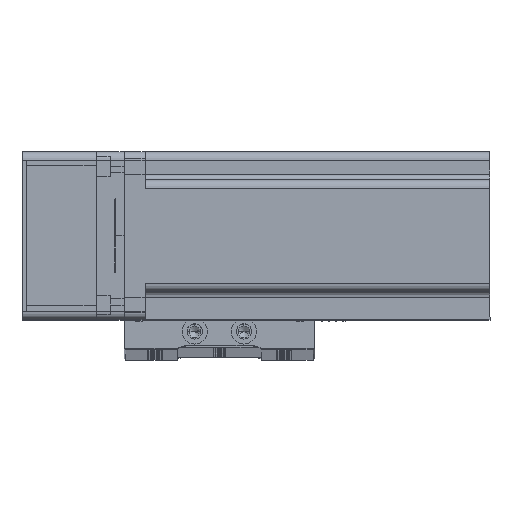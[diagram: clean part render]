
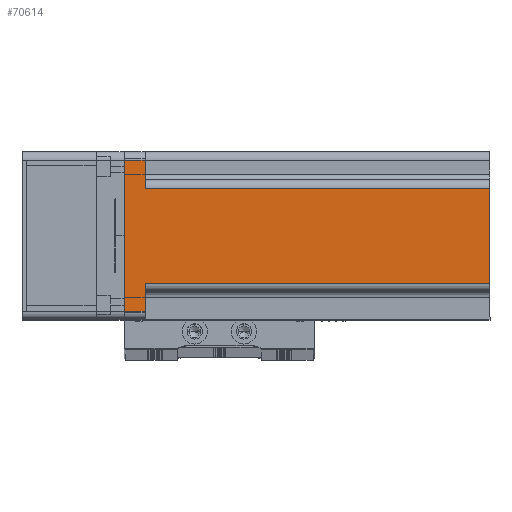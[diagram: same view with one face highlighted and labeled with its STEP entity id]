
A CAD part, top view. The second image highlights one B-rep face of the part: STEP entity #70614.
In plain terms, the highlighted planar face has unit normal (0, 0, 1) as drawn and (0, 1, 0) by its records, which use the part's own axes.
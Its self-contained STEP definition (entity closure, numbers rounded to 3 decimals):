
#1621 = VECTOR ( 'NONE', #2649, 1000. ) ;
#2649 = DIRECTION ( 'NONE',  ( 0., 0., 1. ) ) ;
#2718 = CARTESIAN_POINT ( 'NONE',  ( 27., 30., 0. ) ) ;
#3112 = EDGE_CURVE ( 'NONE', #39220, #55050, #52406, .T. ) ;
#3672 = ORIENTED_EDGE ( 'NONE', *, *, #25800, .T. ) ;
#6633 = CARTESIAN_POINT ( 'NONE',  ( -27., 30., 7.5 ) ) ;
#7886 = VERTEX_POINT ( 'NONE', #55307 ) ;
#8769 = CARTESIAN_POINT ( 'NONE',  ( -17., 30., 130.7 ) ) ;
#9612 = DIRECTION ( 'NONE',  ( 0., -1., 0. ) ) ;
#9867 = VECTOR ( 'NONE', #52873, 1000. ) ;
#10938 = ORIENTED_EDGE ( 'NONE', *, *, #61831, .T. ) ;
#14770 = VECTOR ( 'NONE', #23185, 1000. ) ;
#14965 = CARTESIAN_POINT ( 'NONE',  ( 27., 30., 130.7 ) ) ;
#15165 = CARTESIAN_POINT ( 'NONE',  ( 17., 30., 130.7 ) ) ;
#16216 = LINE ( 'NONE', #40785, #1621 ) ;
#18284 = ORIENTED_EDGE ( 'NONE', *, *, #63322, .T. ) ;
#20382 = PLANE ( 'NONE',  #46071 ) ;
#22078 = CARTESIAN_POINT ( 'NONE',  ( -20., 30., 7.5 ) ) ;
#23185 = DIRECTION ( 'NONE',  ( -1., 0., 0. ) ) ;
#24145 = FACE_OUTER_BOUND ( 'NONE', #58896, .T. ) ;
#24586 = VECTOR ( 'NONE', #40781, 1000. ) ;
#25800 = EDGE_CURVE ( 'NONE', #39220, #33747, #70132, .T. ) ;
#26830 = CARTESIAN_POINT ( 'NONE',  ( 17., 30., 130.7 ) ) ;
#31302 = ORIENTED_EDGE ( 'NONE', *, *, #37890, .T. ) ;
#33747 = VERTEX_POINT ( 'NONE', #59752 ) ;
#35823 = ORIENTED_EDGE ( 'NONE', *, *, #65933, .F. ) ;
#36843 = LINE ( 'NONE', #14965, #66017 ) ;
#36876 = ORIENTED_EDGE ( 'NONE', *, *, #42198, .T. ) ;
#36965 = EDGE_CURVE ( 'NONE', #45448, #7886, #45649, .T. ) ;
#37890 = EDGE_CURVE ( 'NONE', #60260, #42903, #59131, .T. ) ;
#39180 = LINE ( 'NONE', #68111, #24586 ) ;
#39220 = VERTEX_POINT ( 'NONE', #26830 ) ;
#39222 = VECTOR ( 'NONE', #64099, 1000. ) ;
#40781 = DIRECTION ( 'NONE',  ( 0., 0., 1. ) ) ;
#40785 = CARTESIAN_POINT ( 'NONE',  ( -17., 30., 130.7 ) ) ;
#42169 = CARTESIAN_POINT ( 'NONE',  ( -17., 30., 7.5 ) ) ;
#42198 = EDGE_CURVE ( 'NONE', #47156, #45448, #36843, .T. ) ;
#42438 = CARTESIAN_POINT ( 'NONE',  ( 30., 30., 130.7 ) ) ;
#42903 = VERTEX_POINT ( 'NONE', #42169 ) ;
#44082 = CARTESIAN_POINT ( 'NONE',  ( 27., 30., 7.5 ) ) ;
#45448 = VERTEX_POINT ( 'NONE', #2718 ) ;
#45649 = LINE ( 'NONE', #50567, #14770 ) ;
#46071 = AXIS2_PLACEMENT_3D ( 'NONE', #42438, #9612, #47995 ) ;
#46285 = VECTOR ( 'NONE', #60497, 1000. ) ;
#47156 = VERTEX_POINT ( 'NONE', #44082 ) ;
#47995 = DIRECTION ( 'NONE',  ( 1., 0., 0. ) ) ;
#50567 = CARTESIAN_POINT ( 'NONE',  ( 30., 30., 0. ) ) ;
#50679 = VECTOR ( 'NONE', #64441, 1000. ) ;
#51724 = ORIENTED_EDGE ( 'NONE', *, *, #3112, .F. ) ;
#52406 = LINE ( 'NONE', #64665, #50679 ) ;
#52873 = DIRECTION ( 'NONE',  ( -1., 0., 0. ) ) ;
#53057 = ORIENTED_EDGE ( 'NONE', *, *, #36965, .T. ) ;
#53330 = DIRECTION ( 'NONE',  ( 0., 0., -1. ) ) ;
#55050 = VERTEX_POINT ( 'NONE', #8769 ) ;
#55307 = CARTESIAN_POINT ( 'NONE',  ( -27., 30., 0. ) ) ;
#55356 = LINE ( 'NONE', #63904, #9867 ) ;
#58896 = EDGE_LOOP ( 'NONE', ( #31302, #18284, #51724, #3672, #35823, #36876, #53057, #10938 ) ) ;
#59131 = LINE ( 'NONE', #22078, #46285 ) ;
#59752 = CARTESIAN_POINT ( 'NONE',  ( 17., 30., 7.5 ) ) ;
#60260 = VERTEX_POINT ( 'NONE', #6633 ) ;
#60497 = DIRECTION ( 'NONE',  ( 1., 0., 0. ) ) ;
#61831 = EDGE_CURVE ( 'NONE', #7886, #60260, #39180, .T. ) ;
#63322 = EDGE_CURVE ( 'NONE', #42903, #55050, #16216, .T. ) ;
#63904 = CARTESIAN_POINT ( 'NONE',  ( 20., 30., 7.5 ) ) ;
#64099 = DIRECTION ( 'NONE',  ( 0., 0., -1. ) ) ;
#64441 = DIRECTION ( 'NONE',  ( -1., 0., 0. ) ) ;
#64665 = CARTESIAN_POINT ( 'NONE',  ( 30., 30., 130.7 ) ) ;
#65933 = EDGE_CURVE ( 'NONE', #47156, #33747, #55356, .T. ) ;
#66017 = VECTOR ( 'NONE', #53330, 1000. ) ;
#68111 = CARTESIAN_POINT ( 'NONE',  ( -27., 30., 130.7 ) ) ;
#70132 = LINE ( 'NONE', #15165, #39222 ) ;
#70614 = ADVANCED_FACE ( 'NONE', ( #24145 ), #20382, .F. ) ;
